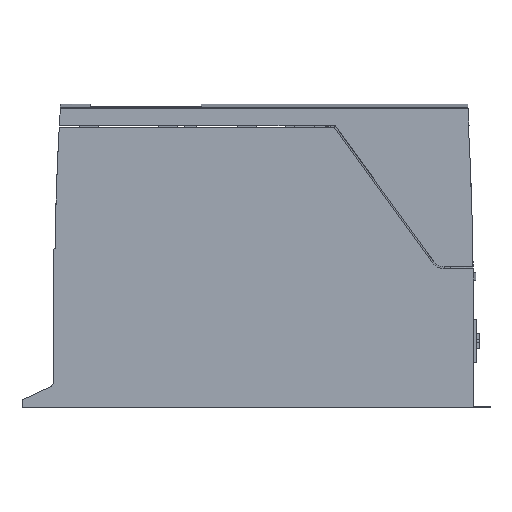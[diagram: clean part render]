
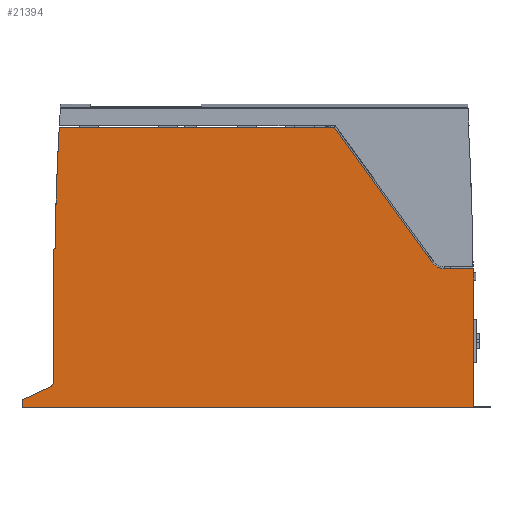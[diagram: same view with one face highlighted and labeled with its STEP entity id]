
A CAD part, left-side view. The second image highlights one B-rep face of the part: STEP entity #21394.
In plain terms, the highlighted planar face has unit normal (-1, 0, 0).
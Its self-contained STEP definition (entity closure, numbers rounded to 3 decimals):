
#19373=DIRECTION('',(0.,0.,1.));
#19374=VECTOR('',#19373,6.);
#19375=CARTESIAN_POINT('',(-51.,-317.5,-92.));
#19376=LINE('',#19375,#19374);
#19380=DIRECTION('',(0.,-1.,0.));
#19381=VECTOR('',#19380,355.);
#19382=CARTESIAN_POINT('',(-51.,37.5,-192.5));
#19383=LINE('',#19382,#19381);
#19387=DIRECTION('',(0.,0.707,-0.707));
#19388=VECTOR('',#19387,1.414);
#19389=CARTESIAN_POINT('',(-51.,11.5,-67.));
#19390=LINE('',#19389,#19388);
#19394=CARTESIAN_POINT('',(-51.,-2188.322,-95.));
#19395=DIRECTION('',(1.,0.,0.));
#19396=DIRECTION('',(0.,1.,0.013));
#19397=AXIS2_PLACEMENT_3D('',#19394,#19395,#19396);
#19402=DIRECTION('',(0.,-1.,0.));
#19403=VECTOR('',#19402,216.231);
#19404=CARTESIAN_POINT('',(-51.,8.237,28.));
#19405=LINE('',#19404,#19403);
#19409=DIRECTION('',(0.,-0.588,-0.809));
#19410=VECTOR('',#19409,131.344);
#19411=CARTESIAN_POINT('',(-51.,-207.994,28.));
#19412=LINE('',#19411,#19410);
#19416=CARTESIAN_POINT('',(-51.,-294.5,-71.5));
#19417=DIRECTION('',(-1.,0.,0.));
#19418=DIRECTION('',(0.,0.809,-0.588));
#19419=AXIS2_PLACEMENT_3D('',#19416,#19417,#19418);
#19424=DIRECTION('',(0.,1.,0.));
#19425=VECTOR('',#19424,23.);
#19426=CARTESIAN_POINT('',(-51.,-317.5,-83.));
#19427=LINE('',#19426,#19425);
#20222=DIRECTION('',(0.,0.,1.));
#20223=VECTOR('',#20222,103.257);
#20224=CARTESIAN_POINT('',(-51.,12.5,-171.257));
#20225=LINE('',#20224,#20223);
#20229=CARTESIAN_POINT('',(-51.,17.5,-171.257));
#20230=DIRECTION('',(1.,0.,0.));
#20231=DIRECTION('',(0.,-1.,0.));
#20232=AXIS2_PLACEMENT_3D('',#20229,#20230,#20231);
#20252=DIRECTION('',(0.,0.906,-0.423));
#20253=VECTOR('',#20252,24.399);
#20254=CARTESIAN_POINT('',(-51.,15.387,-175.788));
#20255=LINE('',#20254,#20253);
#20266=DIRECTION('',(0.,0.,-1.));
#20267=VECTOR('',#20266,6.4);
#20268=CARTESIAN_POINT('',(-51.,37.5,-186.1));
#20269=LINE('',#20268,#20267);
#20315=DIRECTION('',(0.,0.,1.));
#20316=VECTOR('',#20315,100.5);
#20317=CARTESIAN_POINT('',(-51.,-317.5,-192.5));
#20318=LINE('',#20317,#20316);
#20343=DIRECTION('',(0.,0.,1.));
#20344=VECTOR('',#20343,3.);
#20345=CARTESIAN_POINT('',(-51.,-317.5,-86.));
#20346=LINE('',#20345,#20344);
#21047=CARTESIAN_POINT('',(-51.,11.5,-67.));
#21048=CARTESIAN_POINT('',(-51.,12.5,-68.));
#21049=VERTEX_POINT('',#21047);
#21050=VERTEX_POINT('',#21048);
#21051=CARTESIAN_POINT('',(-51.,8.237,28.));
#21052=CARTESIAN_POINT('',(-51.,-207.994,28.));
#21053=VERTEX_POINT('',#21051);
#21054=VERTEX_POINT('',#21052);
#21055=CARTESIAN_POINT('',(-51.,-285.196,-78.26));
#21056=VERTEX_POINT('',#21055);
#21057=CARTESIAN_POINT('',(-51.,-294.5,-83.));
#21058=VERTEX_POINT('',#21057);
#21059=CARTESIAN_POINT('',(-51.,-317.5,-83.));
#21060=VERTEX_POINT('',#21059);
#21067=CARTESIAN_POINT('',(-51.,37.5,-186.1));
#21069=VERTEX_POINT('',#21067);
#21071=CARTESIAN_POINT('',(-51.,37.5,-192.5));
#21072=CARTESIAN_POINT('',(-51.,-317.5,-192.5));
#21073=VERTEX_POINT('',#21071);
#21074=VERTEX_POINT('',#21072);
#21117=CARTESIAN_POINT('',(-51.,12.5,-171.257));
#21119=VERTEX_POINT('',#21117);
#21121=CARTESIAN_POINT('',(-51.,15.387,-175.788));
#21123=VERTEX_POINT('',#21121);
#21267=CARTESIAN_POINT('',(-51.,-317.5,-92.));
#21268=CARTESIAN_POINT('',(-51.,-317.5,-86.));
#21269=VERTEX_POINT('',#21267);
#21270=VERTEX_POINT('',#21268);
#21359=CARTESIAN_POINT('',(-51.,12.5,-191.));
#21360=DIRECTION('',(-1.,0.,0.));
#21361=DIRECTION('',(0.,0.,1.));
#21362=AXIS2_PLACEMENT_3D('',#21359,#21360,#21361);
#21363=PLANE('',#21362);
#21365=ORIENTED_EDGE('',*,*,#21364,.F.);
#21367=ORIENTED_EDGE('',*,*,#21366,.F.);
#21369=ORIENTED_EDGE('',*,*,#21368,.F.);
#21371=ORIENTED_EDGE('',*,*,#21370,.F.);
#21373=ORIENTED_EDGE('',*,*,#21372,.F.);
#21375=ORIENTED_EDGE('',*,*,#21374,.F.);
#21377=ORIENTED_EDGE('',*,*,#21376,.T.);
#21379=ORIENTED_EDGE('',*,*,#21378,.F.);
#21381=ORIENTED_EDGE('',*,*,#21380,.T.);
#21383=ORIENTED_EDGE('',*,*,#21382,.T.);
#21385=ORIENTED_EDGE('',*,*,#21384,.T.);
#21387=ORIENTED_EDGE('',*,*,#21386,.T.);
#21389=ORIENTED_EDGE('',*,*,#21388,.F.);
#21391=ORIENTED_EDGE('',*,*,#21390,.F.);
#21392=EDGE_LOOP('',(#21365,#21367,#21369,#21371,#21373,#21375,#21377,#21379,
#21381,#21383,#21385,#21387,#21389,#21391));
#21393=FACE_OUTER_BOUND('',#21392,.F.);
#21394=ADVANCED_FACE('',(#21393),#21363,.T.);
#19398=CIRCLE('',#19397,2200.);
#19420=CIRCLE('',#19419,11.5);
#20233=CIRCLE('',#20232,5.);
#21364=EDGE_CURVE('',#21269,#21270,#19376,.T.);
#21366=EDGE_CURVE('',#21074,#21269,#20318,.T.);
#21368=EDGE_CURVE('',#21073,#21074,#19383,.T.);
#21370=EDGE_CURVE('',#21069,#21073,#20269,.T.);
#21372=EDGE_CURVE('',#21123,#21069,#20255,.T.);
#21374=EDGE_CURVE('',#21119,#21123,#20233,.T.);
#21376=EDGE_CURVE('',#21119,#21050,#20225,.T.);
#21378=EDGE_CURVE('',#21049,#21050,#19390,.T.);
#21380=EDGE_CURVE('',#21049,#21053,#19398,.T.);
#21382=EDGE_CURVE('',#21053,#21054,#19405,.T.);
#21384=EDGE_CURVE('',#21054,#21056,#19412,.T.);
#21386=EDGE_CURVE('',#21056,#21058,#19420,.T.);
#21388=EDGE_CURVE('',#21060,#21058,#19427,.T.);
#21390=EDGE_CURVE('',#21270,#21060,#20346,.T.);
